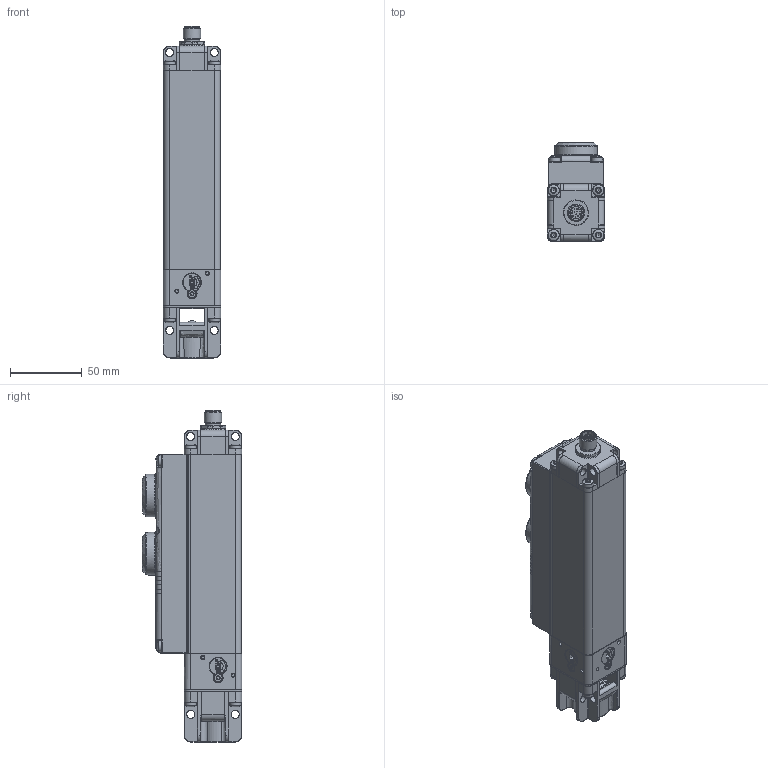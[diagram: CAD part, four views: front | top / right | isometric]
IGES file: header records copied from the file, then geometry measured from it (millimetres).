
Global section: file name: 2036733_A_PSENmg1-A-xxxxx-Fxxx-Sx; native system: Autodesk Inventor 2024; preprocessor: unknown; author: rvet; date: 20240705.143558; units: millimetre
Bounding box: 40 x 69.25 x 231.2 mm (x, y, z)
Volume: 422906.5 mm3; surface area: 60619 mm2
Topology: 1 solids, 1 shells, 1908 faces, 4889 edges, 3018 vertices
Faces by surface type: bspline 1908
